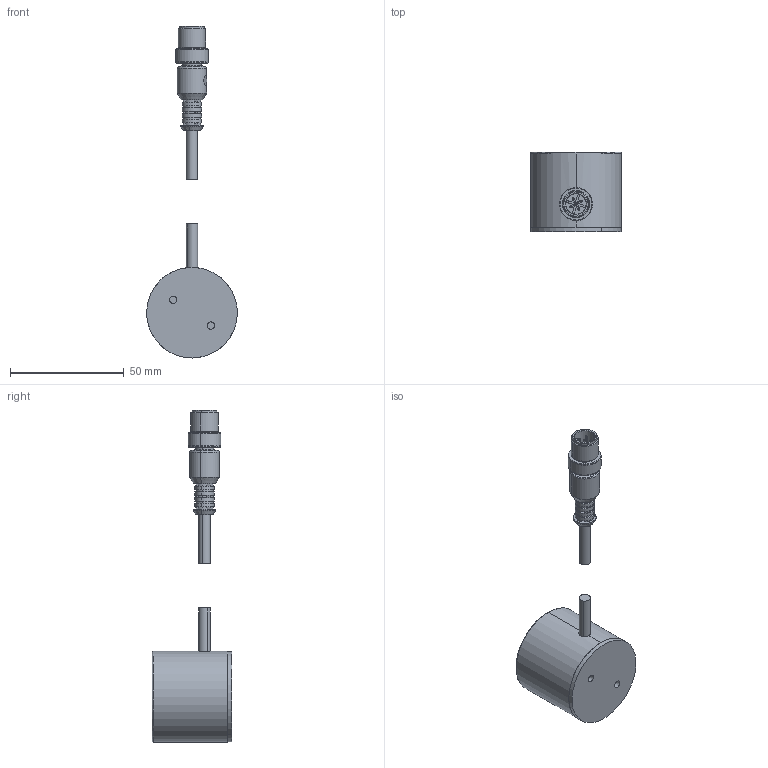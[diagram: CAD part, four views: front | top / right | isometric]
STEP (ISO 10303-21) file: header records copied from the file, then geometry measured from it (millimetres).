
FILE_DESCRIPTION (( 'STEP AP203' ), '1' );
FILE_NAME ('RM12 Sensor.STEP', '2008-11-18T12:55:27', ( 'Benutzer' ), ( '' ), 'SwSTEP 2.0', 'SolidWorks 2007', '' );
FILE_SCHEMA (( 'CONFIG_CONTROL_DESIGN' ));
Length unit declared in the file: millimetre
Products named in the file (8): RM12 Diffusor_Standard; Gehäuse_STEP; RM12 Sensor; Gehäusedeckel_Standard; 79-3439-32-05_Standard; 79-3439-32-6_Standard; Kabelstück_Standard
Assembly tree (7 placements, depth 3):
  RM12 Sensor
    79-3439-32-05_Standard
      79-3439-32-6_Standard
      79-3439-32-05_Standard
    Kabelstück_Standard
    RM12 Diffusor_Standard
    Gehäusedeckel_Standard
    Gehäuse_STEP
Bounding box: 39.8 x 35 x 145.82 mm (x, y, z)
Volume: 50055.8 mm3; surface area: 15276.4 mm2
Topology: 6 solids, 8 shells, 256 faces, 582 edges, 364 vertices
Faces by surface type: cylinder 107, plane 82, cone 41, bspline 22, torus 4
Entity records: 8542 total; most frequent: CARTESIAN_POINT 1894, DIRECTION 1318, ORIENTED_EDGE 1148, EDGE_CURVE 574, AXIS2_PLACEMENT_3D 532, VERTEX_POINT 364, CIRCLE 287, EDGE_LOOP 286
